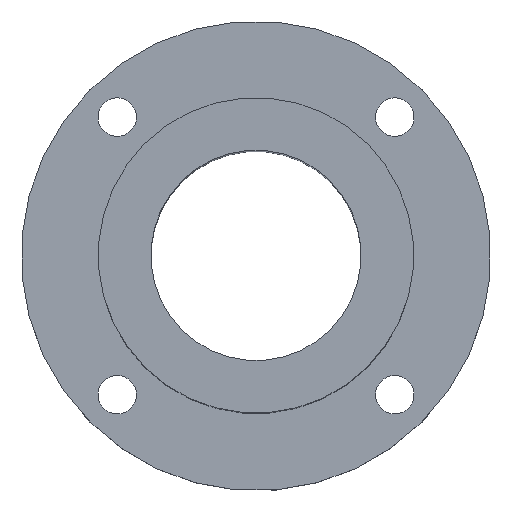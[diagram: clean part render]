
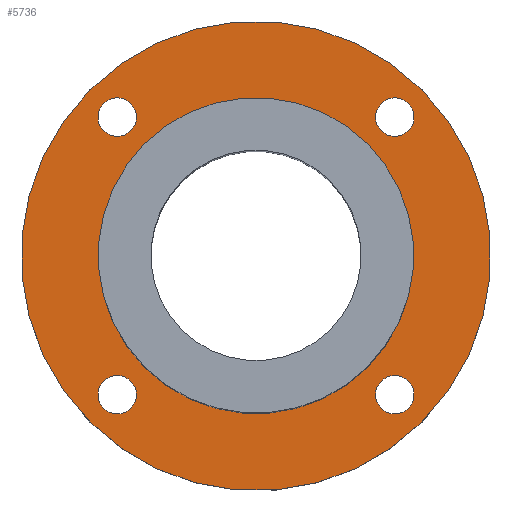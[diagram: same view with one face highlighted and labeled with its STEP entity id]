
A CAD part, top view. The second image highlights one B-rep face of the part: STEP entity #5736.
In plain terms, the highlighted planar face has unit normal (0, 0, 1).
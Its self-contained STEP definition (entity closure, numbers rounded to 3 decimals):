
#110=CIRCLE('',#6098,45.);
#114=CIRCLE('',#6106,67.);
#115=CIRCLE('',#6108,5.5);
#116=CIRCLE('',#6109,5.5);
#117=CIRCLE('',#6110,5.5);
#118=CIRCLE('',#6111,5.5);
#519=ORIENTED_EDGE('',*,*,#2161,.F.);
#520=ORIENTED_EDGE('',*,*,#2162,.F.);
#521=ORIENTED_EDGE('',*,*,#2163,.F.);
#522=ORIENTED_EDGE('',*,*,#2164,.F.);
#523=ORIENTED_EDGE('',*,*,#2156,.T.);
#524=ORIENTED_EDGE('',*,*,#2160,.T.);
#2156=EDGE_CURVE('',#2980,#2980,#110,.F.);
#2160=EDGE_CURVE('',#2984,#2984,#114,.T.);
#2161=EDGE_CURVE('',#2985,#2985,#115,.T.);
#2162=EDGE_CURVE('',#2986,#2986,#116,.T.);
#2163=EDGE_CURVE('',#2987,#2987,#117,.T.);
#2164=EDGE_CURVE('',#2988,#2988,#118,.T.);
#2980=VERTEX_POINT('',#9055);
#2984=VERTEX_POINT('',#9067);
#2985=VERTEX_POINT('',#9070);
#2986=VERTEX_POINT('',#9072);
#2987=VERTEX_POINT('',#9074);
#2988=VERTEX_POINT('',#9076);
#4691=EDGE_LOOP('',(#519));
#4692=EDGE_LOOP('',(#520));
#4693=EDGE_LOOP('',(#521));
#4694=EDGE_LOOP('',(#522));
#4695=EDGE_LOOP('',(#523));
#4696=EDGE_LOOP('',(#524));
#5109=FACE_BOUND('',#4691,.T.);
#5110=FACE_BOUND('',#4692,.T.);
#5111=FACE_BOUND('',#4693,.T.);
#5112=FACE_BOUND('',#4694,.T.);
#5113=FACE_BOUND('',#4695,.T.);
#5114=FACE_BOUND('',#4696,.T.);
#5469=PLANE('',#6107);
#5736=ADVANCED_FACE('',(#5109,#5110,#5111,#5112,#5113,#5114),#5469,.T.);
#6098=AXIS2_PLACEMENT_3D('',#9054,#6626,#6627);
#6106=AXIS2_PLACEMENT_3D('',#9066,#6642,#6643);
#6107=AXIS2_PLACEMENT_3D('',#9068,#6644,#6645);
#6108=AXIS2_PLACEMENT_3D('',#9069,#6646,#6647);
#6109=AXIS2_PLACEMENT_3D('',#9071,#6648,#6649);
#6110=AXIS2_PLACEMENT_3D('',#9073,#6650,#6651);
#6111=AXIS2_PLACEMENT_3D('',#9075,#6652,#6653);
#6626=DIRECTION('',(0.,0.,1.));
#6627=DIRECTION('',(0.707,-0.707,0.));
#6642=DIRECTION('',(0.,0.,1.));
#6643=DIRECTION('',(0.707,-0.707,0.));
#6644=DIRECTION('',(0.,0.,1.));
#6645=DIRECTION('',(0.707,-0.707,0.));
#6646=DIRECTION('',(0.,0.,1.));
#6647=DIRECTION('',(0.707,-0.707,0.));
#6648=DIRECTION('',(0.,0.,1.));
#6649=DIRECTION('',(0.707,-0.707,0.));
#6650=DIRECTION('',(0.,0.,1.));
#6651=DIRECTION('',(0.707,-0.707,0.));
#6652=DIRECTION('',(0.,0.,1.));
#6653=DIRECTION('',(0.707,-0.707,0.));
#9054=CARTESIAN_POINT('',(0.,0.,0.));
#9055=CARTESIAN_POINT('',(31.82,-31.82,0.));
#9066=CARTESIAN_POINT('',(0.,0.,0.));
#9067=CARTESIAN_POINT('',(47.376,-47.376,0.));
#9068=CARTESIAN_POINT('',(0.,0.,0.));
#9069=CARTESIAN_POINT('',(39.598,39.598,0.));
#9070=CARTESIAN_POINT('',(43.487,35.709,0.));
#9071=CARTESIAN_POINT('',(-39.598,39.598,0.));
#9072=CARTESIAN_POINT('',(-35.709,35.709,0.));
#9073=CARTESIAN_POINT('',(-39.598,-39.598,0.));
#9074=CARTESIAN_POINT('',(-35.709,-43.487,0.));
#9075=CARTESIAN_POINT('',(39.598,-39.598,0.));
#9076=CARTESIAN_POINT('',(43.487,-43.487,0.));
